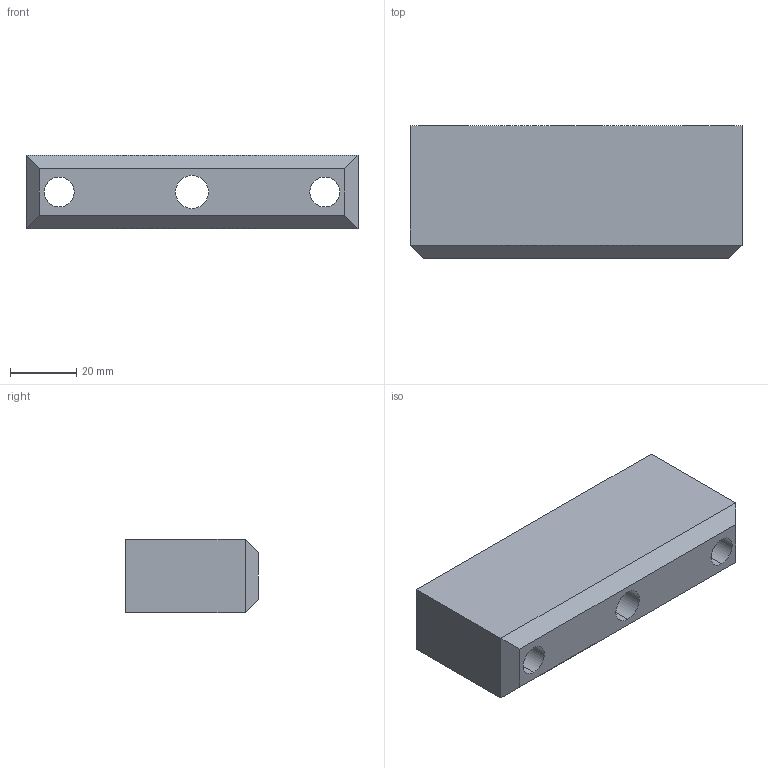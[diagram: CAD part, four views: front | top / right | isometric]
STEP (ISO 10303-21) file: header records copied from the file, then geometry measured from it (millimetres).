
FILE_DESCRIPTION(('CATIA V5 STEP Exchange'),'2;1');
FILE_NAME('C:\Users\Raffaele\Desktop\3D X SITO CF\761\GSB_OILLESS_M31705040100\STEP-2.03\761-040100.stp','2019-07-05T06:42:39+00:00',('none'),('none'),'CATIA Version 5 Release 20 GA (IN-10)','CATIA V5 STEP AP203','none');
FILE_SCHEMA(('CONFIG_CONTROL_DESIGN'));
Length unit declared in the file: millimetre
Products named in the file (1): 761-040100
Bounding box: 100 x 40 x 22 mm (x, y, z)
Volume: 72498.8 mm3; surface area: 17548.4 mm2
Topology: 1 solids, 1 shells, 25 faces, 80 edges, 60 vertices
Faces by surface type: plane 13, cylinder 12
Entity records: 1074 total; most frequent: CARTESIAN_POINT 316, ORIENTED_EDGE 160, DIRECTION 118, EDGE_CURVE 80, AXIS2_PLACEMENT_3D 62, VERTEX_POINT 60, CIRCLE 36, EDGE_LOOP 34
